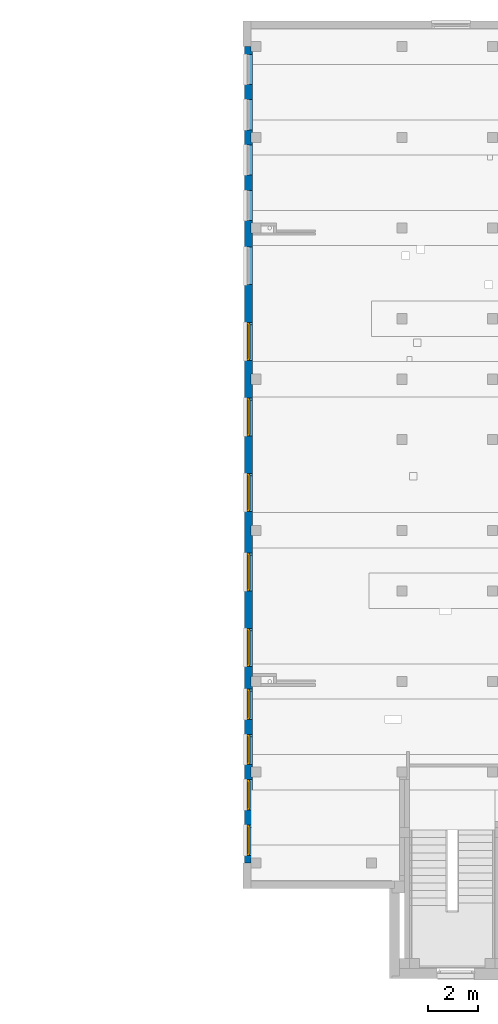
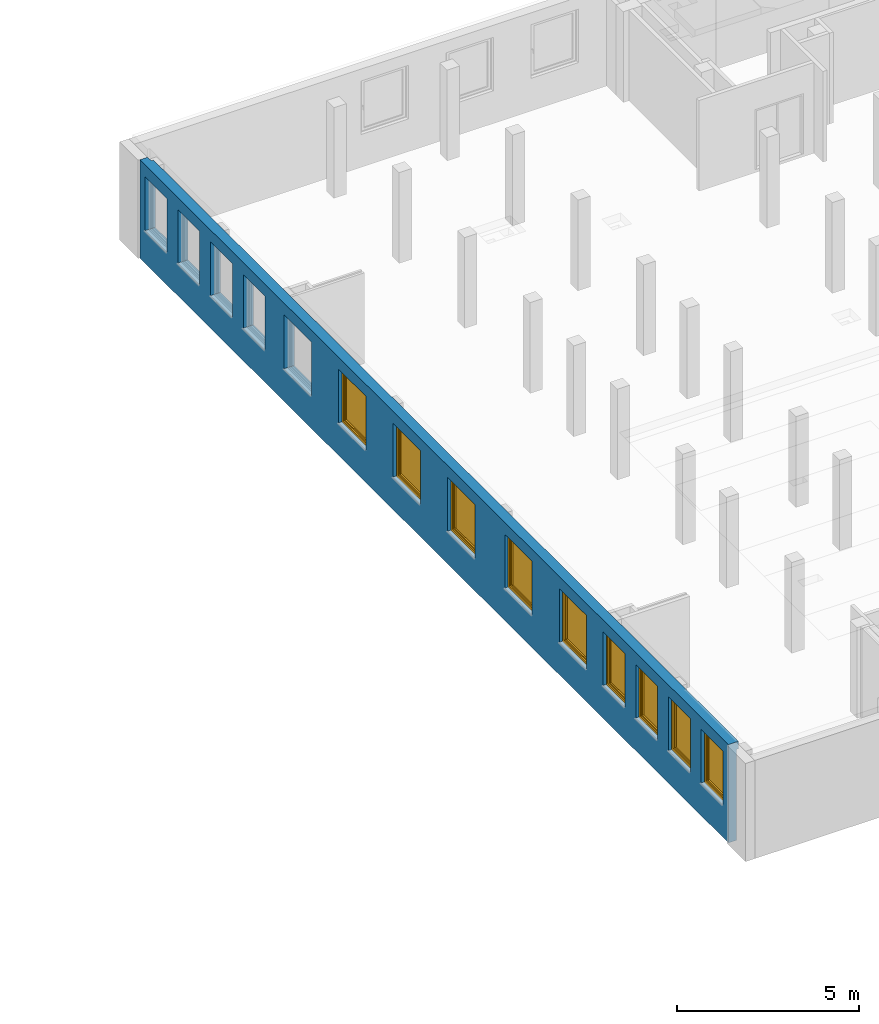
# One storey, part 7 of 27: 9 windows, 1 wall, 14 openings.
"""IFC4 building model written with IfcOpenShell, lengths in metres."""

import ifcopenshell
import ifcopenshell.guid

model = None  # the IFC model being written
_history = None  # IfcOwnerHistory: only IFC2X3 demands one
_inside = {}  # id of a spatial element -> (the spatial element, [elements in it])
_under = {}  # id of a project, library or spatial element -> (it, [spatial elements below it])
_declared = {}  # id of a project -> (the project, [libraries it declares])
_typed = {}  # id of a type object -> (the type object, [elements of that type])
_made_of = {}  # id of a material, layer set ... -> (it, [elements and type objects made of it])


def new_model(schema):
    """Start an empty IFC model of exactly this schema.

    Asked for "IFC4X3", IfcOpenShell would pick the latest addendum, in which some entities
    have other attributes; the version numbers below select the first issue.
    IFC2X3 requires an IfcOwnerHistory on every rooted entity: one is made here for all.
    """
    global model, _history
    if schema == "IFC4X3":
        model = ifcopenshell.file(schema_version=(4, 3, 0, 0))
    else:
        model = ifcopenshell.file(schema=schema)
    _inside.clear()
    _under.clear()
    _declared.clear()
    _typed.clear()
    _made_of.clear()
    _history = None
    if model.schema == "IFC2X3":
        org = make("IfcOrganization", Name="unknown")
        user = make(
            "IfcPersonAndOrganization",
            ThePerson=make("IfcPerson", FamilyName="unknown"),
            TheOrganization=org,
        )
        app = make(
            "IfcApplication",
            ApplicationDeveloper=org,
            Version="unknown",
            ApplicationFullName="unknown",
            ApplicationIdentifier="unknown",
        )
        _history = make(
            "IfcOwnerHistory",
            OwningUser=user,
            OwningApplication=app,
            ChangeAction="ADDED",
            CreationDate=0,
        )
    return model


def make(cls, **values):
    """One entity of the class cls with the attributes given. An attribute that is None is left unset."""
    return model.create_entity(
        cls, **{name: value for name, value in values.items() if value is not None}
    )


def entity(cls, *values):
    """Any entity or typed value of the class cls, its attributes in the order of the schema. None: left unset."""
    e = model.create_entity(cls)
    for i, value in enumerate(values):
        if value is not None:
            e[i] = value
    return e


def rooted(cls, **values):
    """An entity with a GlobalId (a new one), such as an element, a storey or a relation."""
    return make(cls, GlobalId=ifcopenshell.guid.new(), OwnerHistory=_history, **values)


def si_unit(unit_type, name, prefix=None):
    """IfcSIUnit, for example si_unit("LENGTHUNIT", "METRE", prefix="MILLI")."""
    return make("IfcSIUnit", UnitType=unit_type, Prefix=prefix, Name=name)


def converted_unit(unit_type, name, factor, base, dimensions=None, offset=None):
    """IfcConversionBasedUnit, such as the inch: factor (a typed value) times the base unit."""
    return make(
        "IfcConversionBasedUnit"
        if offset is None
        else "IfcConversionBasedUnitWithOffset",
        ConversionOffset=offset,
        Dimensions=None
        if dimensions is None
        else entity("IfcDimensionalExponents", *dimensions),
        UnitType=unit_type,
        Name=name,
        ConversionFactor=make(
            "IfcMeasureWithUnit", ValueComponent=factor, UnitComponent=base
        ),
    )


def derived_unit(unit_type, elements):
    """IfcDerivedUnit: a product of units, each with its exponent."""
    return make(
        "IfcDerivedUnit",
        Elements=[
            make("IfcDerivedUnitElement", Unit=unit, Exponent=power)
            for unit, power in elements
        ],
        UnitType=unit_type,
    )


def assignment(units):
    """IfcUnitAssignment: the units of a project."""
    return None if units is None else make("IfcUnitAssignment", Units=units)


def point(xyz):
    """IfcCartesianPoint."""
    return None if xyz is None else make("IfcCartesianPoint", Coordinates=xyz)


def direction(xyz):
    """IfcDirection."""
    return None if xyz is None else make("IfcDirection", DirectionRatios=xyz)


def frame(location, z_axis=None, x_axis=None):
    """IfcAxis2Placement3D, a coordinate frame: its origin and axes. An axis left out is left unset."""
    return make(
        "IfcAxis2Placement3D",
        Location=point(location),
        Axis=direction(z_axis),
        RefDirection=direction(x_axis),
    )


def origin():
    """The frame at (0, 0, 0) with its axes left unset."""
    return frame((0.0, 0.0, 0.0))


def origin_with_axes():
    """The frame at (0, 0, 0) with the z axis (0, 0, 1) and the x axis (1, 0, 0) written out."""
    return frame((0.0, 0.0, 0.0), z_axis=(0.0, 0.0, 1.0), x_axis=(1.0, 0.0, 0.0))


def place(relative_to, where):
    """IfcLocalPlacement: puts the frame where relative to a parent placement (None: the world)."""
    return make(
        "IfcLocalPlacement", PlacementRelTo=relative_to, RelativePlacement=where
    )


def context(
    kind, dimensions, precision=None, world=None, true_north=None, identifier=None
):
    """IfcGeometricRepresentationContext, for example the 3D "Model" context."""
    return make(
        "IfcGeometricRepresentationContext",
        ContextIdentifier=identifier,
        ContextType=kind,
        CoordinateSpaceDimension=dimensions,
        Precision=precision,
        WorldCoordinateSystem=world,
        TrueNorth=true_north,
    )


def subcontext(parent, identifier, kind, view, scale=None):
    """IfcGeometricRepresentationSubContext, for example "Body" below "Model"."""
    return make(
        "IfcGeometricRepresentationSubContext",
        ContextIdentifier=identifier,
        ContextType=kind,
        ParentContext=parent,
        TargetScale=scale,
        TargetView=view,
    )


def project(units=None, contexts=None):
    """IfcProject with its units and contexts."""
    return rooted(
        "IfcProject",
        Name="project",
        RepresentationContexts=contexts,
        UnitsInContext=assignment(units),
    )


def spatial(cls, under=None, at=None, **own):
    """A site, building, storey or space (cls), placed at a placement, below another one or the project."""
    s = rooted(cls, ObjectPlacement=at, **own)
    if under is not None:
        _under.setdefault(under.id(), (under, []))[1].append(s)
    return s


def polyline(points):
    """IfcPolyline through the points."""
    return make("IfcPolyline", Points=[point(p) for p in points])


def outline(outer, holes=None, kind="AREA"):
    """IfcArbitraryClosedProfileDef: a profile drawn as a closed curve; with holes, ...WithVoids."""
    if holes is None:
        return make("IfcArbitraryClosedProfileDef", ProfileType=kind, OuterCurve=outer)
    return make(
        "IfcArbitraryProfileDefWithVoids",
        ProfileType=kind,
        OuterCurve=outer,
        InnerCurves=holes,
    )


def extrude(swept, where, along, depth):
    """IfcExtrudedAreaSolid: the profile swept, set in the frame where, extruded along a direction by depth."""
    return make(
        "IfcExtrudedAreaSolid",
        SweptArea=swept,
        Position=where,
        ExtrudedDirection=direction(along),
        Depth=depth,
    )


def clip(a, b, op="DIFFERENCE"):
    """IfcBooleanClippingResult: the solid a cut by the half space b."""
    return make(
        "IfcBooleanClippingResult", Operator=op, FirstOperand=a, SecondOperand=b
    )


def bounded_halfspace(plane, agree, where, boundary):
    """IfcPolygonalBoundedHalfSpace: a half space limited to a polygon's prism."""
    return make(
        "IfcPolygonalBoundedHalfSpace",
        BaseSurface=make("IfcPlane", Position=plane),
        AgreementFlag=agree,
        Position=where,
        PolygonalBoundary=boundary,
    )


def faces_of(points, faces, orient=None, outer=None):
    """IfcFace entities. A face is a list of loops; a loop is a list of indices into points, from 0.

    orient and outer hold one flag for each loop. By default every Orientation is true, the
    first loop of a face is its IfcFaceOuterBound and the others are IfcFaceBound.
    """
    made = []
    for i, loops in enumerate(faces):
        bounds = []
        for j, loop in enumerate(loops):
            is_outer = j == 0 if outer is None else outer[i][j]
            bounds.append(
                make(
                    "IfcFaceOuterBound" if is_outer else "IfcFaceBound",
                    Bound=make("IfcPolyLoop", Polygon=[points[k] for k in loop]),
                    Orientation=True if orient is None else orient[i][j],
                )
            )
        made.append(make("IfcFace", Bounds=bounds))
    return made


def closed_shell(faces, orient=None, outer=None):
    """The faces of one IfcClosedShell. faceted_brep and surface_model build it on their shared points."""
    return ("IfcClosedShell", faces, orient, outer)


def open_shell(faces, orient=None, outer=None):
    """The faces of one IfcOpenShell. surface_model builds it on its shared points."""
    return ("IfcOpenShell", faces, orient, outer)


def surface_model(cls, points, shells):
    """IfcFaceBasedSurfaceModel or IfcShellBasedSurfaceModel (cls): surfaces that need not close."""
    shared = [point(p) for p in points]
    made = [make(c, CfsFaces=faces_of(shared, fs, o, b)) for c, fs, o, b in shells]
    if cls == "IfcFaceBasedSurfaceModel":
        return make(cls, FbsmFaces=made)
    return make(cls, SbsmBoundary=made)


def shape(context_of_items, identifier, shape_type, items):
    """IfcShapeRepresentation: the items that make up one representation, for example the "Body"."""
    return make(
        "IfcShapeRepresentation",
        ContextOfItems=context_of_items,
        RepresentationIdentifier=identifier,
        RepresentationType=shape_type,
        Items=items,
    )


def source(mapping_origin, context_of_items, identifier, shape_type, items):
    """IfcRepresentationMap: a shape defined once, which mapped items show again and again."""
    return make(
        "IfcRepresentationMap",
        MappingOrigin=mapping_origin,
        MappedRepresentation=shape(context_of_items, identifier, shape_type, items),
    )


def transform(
    local_origin,
    x_axis=None,
    y_axis=None,
    z_axis=None,
    scale=None,
    scale2=None,
    scale3=None,
    uniform=True,
):
    """IfcCartesianTransformationOperator3D, or its non-uniform kind. x_axis, y_axis, z_axis: its Axis1, 2, 3."""
    if uniform:
        return make(
            "IfcCartesianTransformationOperator3D",
            Axis1=direction(x_axis),
            Axis2=direction(y_axis),
            LocalOrigin=point(local_origin),
            Scale=scale,
            Axis3=direction(z_axis),
        )
    return make(
        "IfcCartesianTransformationOperator3DnonUniform",
        Axis1=direction(x_axis),
        Axis2=direction(y_axis),
        LocalOrigin=point(local_origin),
        Scale=scale,
        Axis3=direction(z_axis),
        Scale2=scale2,
        Scale3=scale3,
    )


def mapped(mapping_source, mapping_target):
    """IfcMappedItem: shows the shape of a source again, moved by a transform."""
    return make(
        "IfcMappedItem", MappingSource=mapping_source, MappingTarget=mapping_target
    )


def material(Name=None, Category=None):
    """IfcMaterial."""
    return make("IfcMaterial", Name=Name, Category=Category)


def layer(
    of_material, thickness, ventilated=None, Name=None, Category=None, Priority=None
):
    """IfcMaterialLayer: one layer of a wall or slab, of a material (None: an air gap)."""
    return make(
        "IfcMaterialLayer",
        Material=of_material,
        LayerThickness=thickness,
        IsVentilated=ventilated,
        Name=Name,
        Category=Category,
        Priority=Priority,
    )


def layer_set(layers, Name=None):
    """IfcMaterialLayerSet."""
    return make("IfcMaterialLayerSet", MaterialLayers=layers, LayerSetName=Name)


def layer_usage(for_layer_set, set_direction, sense, offset, extent=None):
    """IfcMaterialLayerSetUsage: how a layer set lies in its element."""
    return make(
        "IfcMaterialLayerSetUsage",
        ForLayerSet=for_layer_set,
        LayerSetDirection=set_direction,
        DirectionSense=sense,
        OffsetFromReferenceLine=offset,
        ReferenceExtent=extent,
    )


def made_of(thing, what):
    """Note that an element or type object is made of a material, layer set ...; save() writes the relation."""
    if what is not None:
        _made_of.setdefault(what.id(), (what, []))[1].append(thing)
    return thing


def element(
    cls,
    number,
    at=None,
    inside=None,
    cuts=None,
    type_object=None,
    material=None,
    context=None,
    identifier="Body",
    shape_type=None,
    held_by="IfcProductDefinitionShape",
    body=None,
    shapes=None,
    **own,
):
    """One element of the class cls, such as IfcWall. Its Tag is "e" and its number.

    at: its placement. inside: the storey or other place that contains it. cuts: it is an
    opening in that element (IfcRelVoidsElement). A single representation is given by context,
    identifier, shape_type and body (its items); several are given by shapes. held_by: the class
    of the entity that holds the representations. save() writes the other relations.
    """
    e = rooted(cls, Tag="e%d" % number, ObjectPlacement=at, **own)
    if body is not None:
        shapes = [shape(context, identifier, shape_type, body)]
    if shapes is not None:
        e.Representation = make(held_by, Representations=shapes)
    if inside is not None:
        _inside.setdefault(inside.id(), (inside, []))[1].append(e)
    if cuts is not None:
        rooted(
            "IfcRelVoidsElement", RelatingBuildingElement=cuts, RelatedOpeningElement=e
        )
    if type_object is not None:
        _typed.setdefault(type_object.id(), (type_object, []))[1].append(e)
    return made_of(e, material)


def fill(opening, filler):
    """IfcRelFillsElement: the door or window that sits in an opening."""
    return rooted(
        "IfcRelFillsElement",
        RelatingOpeningElement=opening,
        RelatedBuildingElement=filler,
    )


def aggregate(whole, parts):
    """IfcRelAggregates: a whole, such as a stair, and the parts it consists of."""
    return rooted("IfcRelAggregates", RelatingObject=whole, RelatedObjects=parts)


def save(model, path):
    """Write the relations noted so far, then the file.

    IfcRelAggregates (storeys below a building ...), IfcRelContainedInSpatialStructure (elements
    in a storey), IfcRelDefinesByType, IfcRelAssociatesMaterial and IfcRelDeclares: one each for
    every whole, place, type object, material and project.
    """
    for whole, parts in _under.values():
        aggregate(whole, parts)
    for where, things in _inside.values():
        rooted(
            "IfcRelContainedInSpatialStructure",
            RelatedElements=things,
            RelatingStructure=where,
        )
    for kind, things in _typed.values():
        rooted("IfcRelDefinesByType", RelatedObjects=things, RelatingType=kind)
    for what, things in _made_of.values():
        rooted("IfcRelAssociatesMaterial", RelatedObjects=things, RelatingMaterial=what)
    for by, libraries in _declared.values():
        rooted("IfcRelDeclares", RelatingContext=by, RelatedDefinitions=libraries)
    model.write(path)


model = new_model("IFC4")

# Units and contexts
model_context = context("Model", 3, precision=1e-05, world=origin())
body_context = subcontext(model_context, "Body", "Model", "MODEL_VIEW")
ifc_project = project(units=[si_unit("LENGTHUNIT", "METRE"), si_unit("AREAUNIT", "SQUARE_METRE"), si_unit("VOLUMEUNIT", "CUBIC_METRE"), si_unit("MASSUNIT", "GRAM", prefix="KILO"), converted_unit("PLANEANGLEUNIT", "DEGREE", entity("IfcPlaneAngleMeasure", 0.0174532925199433), si_unit("PLANEANGLEUNIT", "RADIAN"), dimensions=[0, 0, 0, 0, 0, 0, 0]), derived_unit("THERMALTRANSMITTANCEUNIT", [(si_unit("POWERUNIT", "WATT"), 1), (si_unit("THERMODYNAMICTEMPERATUREUNIT", "KELVIN"), -1), (si_unit("LENGTHUNIT", "METRE"), -2)]), derived_unit("VOLUMETRICFLOWRATEUNIT", [(si_unit("LENGTHUNIT", "METRE"), 3), (converted_unit("TIMEUNIT", "hour", entity("IfcTimeMeasure", 3600.0), si_unit("TIMEUNIT", "SECOND"), dimensions=[0, 0, 1, 0, 0, 0, 0]), -1), (si_unit("LENGTHUNIT", "METRE"), -1)])], contexts=[model_context])

# Site, building, storey
site_placement = place(None, origin())
site = spatial("IfcSite", under=ifc_project, at=site_placement, Name="3. ASŘ", CompositionType="ELEMENT")
building_placement = place(site_placement, origin())
building = spatial("IfcBuilding", under=site, at=building_placement, Name="Pavilon C", CompositionType="ELEMENT")
storey_placement = place(building_placement, frame((0.0, 0.0, 10.5)))
storey = spatial("IfcBuildingStorey", under=building, at=storey_placement, Name="Půdorys 4.NP", CompositionType="ELEMENT", Elevation=10.5)

# Wall, openings, windows
ifc_material = material(Name="ZELEZOBETONOVÁ KCE")
ifc_layer = layer(ifc_material, 0.32)
ifc_layer_set = layer_set([ifc_layer])
ifc_layer_usage = layer_usage(ifc_layer_set, "AXIS2", "POSITIVE", 0.0)
wall_placement = place(storey_placement, frame((24.5, 32.4, -0.1), z_axis=(0.0, 0.0, 1.0), x_axis=(-2.24566593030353e-16, -1.0, 0.0)))
wall = element("IfcWall", 1, at=wall_placement, inside=storey, material=ifc_layer_usage, Name="ZELEZOBETONOVÁ KCE", context=body_context, shape_type="Clipping", body=[
    clip(clip(clip(clip(clip(clip(clip(extrude(outline(polyline([(-32.4, 0.0), (-7.18613097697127e-17, -1.61376495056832e-32), (-7.18613097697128e-17, 0.32), (-32.2, 0.32), (-32.2, 0.25), (-32.4, 0.25), (-32.4, 0.0)])), frame((32.4, 0.0, 0.0), z_axis=(0.0, 0.0, 1.0), x_axis=(1.0, 0.0, 0.0)), (0.0, 0.0, 1.0), 3.3), bounded_halfspace(frame((13.2, 0.284999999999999, 3.05), z_axis=(0.0, 0.0, 1.0), x_axis=(2.24566593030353e-16, -1.0, 0.0)), True, origin_with_axes(), polyline([(13.0, 0.319999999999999), (13.0, 0.250000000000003), (13.4, 0.250000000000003), (13.4, 0.319999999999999), (13.0, 0.319999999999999)]))), bounded_halfspace(frame((25.2, 0.284999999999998, 3.05), z_axis=(0.0, 0.0, 1.0), x_axis=(2.24566593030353e-16, -1.0, 0.0)), True, origin_with_axes(), polyline([(25.0, 0.319999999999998), (25.0, 0.249999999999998), (25.4, 0.249999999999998), (25.4, 0.319999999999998), (25.0, 0.319999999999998)]))), bounded_halfspace(frame((28.8, 0.284999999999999, 3.05), z_axis=(0.0, 0.0, 1.0), x_axis=(2.24566593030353e-16, -1.0, 0.0)), True, origin_with_axes(), polyline([(28.6, 0.319999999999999), (28.6, 0.249999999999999), (29.0, 0.249999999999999), (29.0, 0.319999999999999), (28.6, 0.319999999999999)]))), bounded_halfspace(frame((19.2, 0.285000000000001, 3.05), z_axis=(0.0, 0.0, 1.0), x_axis=(2.24566593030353e-16, -1.0, 0.0)), True, origin_with_axes(), polyline([(19.0, 0.320000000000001), (19.0, 0.249999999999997), (19.4, 0.249999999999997), (19.4, 0.320000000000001), (19.0, 0.320000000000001)]))), bounded_halfspace(frame((7.2, 0.285000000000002, 3.05), z_axis=(0.0, 0.0, 1.0), x_axis=(2.24566593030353e-16, -1.0, 0.0)), True, origin_with_axes(), polyline([(7.0, 0.320000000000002), (7.0, 0.250000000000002), (7.4, 0.250000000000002), (7.4, 0.320000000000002), (7.0, 0.320000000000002)]))), bounded_halfspace(frame((32.3, 0.285, 3.05), z_axis=(0.0, 0.0, 1.0), x_axis=(2.24566593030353e-16, -1.0, 0.0)), True, origin_with_axes(), polyline([(32.2, 0.32), (32.2, 0.25), (32.4, 0.25), (32.4, 0.32), (32.2, 0.32)]))), bounded_halfspace(frame((3.6, 0.284999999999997, 3.05), z_axis=(0.0, 0.0, 1.0), x_axis=(2.24566593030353e-16, -1.0, 0.0)), True, origin_with_axes(), polyline([(3.4, 0.320000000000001), (3.4, 0.249999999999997), (3.8, 0.249999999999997), (3.8, 0.320000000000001), (3.4, 0.320000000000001)]))),
])
opening_1_placement = place(wall_placement, frame((30.9, -3.36849889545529e-16, 1.1), z_axis=(0.0, 1.0, 0.0), x_axis=(0.0, 0.0, 1.0)))
opening_1 = element("IfcOpeningElement", 2, at=opening_1_placement, cuts=wall, Name="Okenní otvor", ObjectType="Opening", context=body_context, shape_type="SweptSolid", body=[
    extrude(outline(polyline([(0.0, 1.2), (1.8, 1.2), (1.8, 0.0), (0.0, 0.0), (0.0, 1.2)])), origin_with_axes(), (0.0, 0.0, 1.0), 0.32),
])
opening_2_placement = place(wall_placement, frame((29.1, -7.41069757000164e-16, 1.1), z_axis=(0.0, 1.0, 0.0), x_axis=(0.0, 0.0, 1.0)))
opening_2 = element("IfcOpeningElement", 3, at=opening_2_placement, cuts=wall, Name="Okenní otvor", ObjectType="Opening", context=body_context, shape_type="SweptSolid", body=[
    extrude(outline(polyline([(0.0, 1.2), (1.8, 1.2), (1.8, 0.0), (0.0, 0.0), (0.0, 1.2)])), origin_with_axes(), (0.0, 0.0, 1.0), 0.32),
])
opening_3_placement = place(wall_placement, frame((27.3, -1.1452896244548e-15, 1.1), z_axis=(0.0, 1.0, 0.0), x_axis=(0.0, 0.0, 1.0)))
opening_3 = element("IfcOpeningElement", 4, at=opening_3_placement, cuts=wall, Name="Okenní otvor", ObjectType="Opening", context=body_context, shape_type="SweptSolid", body=[
    extrude(outline(polyline([(0.0, 1.2), (1.8, 1.2), (1.8, 0.0), (0.0, 0.0), (0.0, 1.2)])), origin_with_axes(), (0.0, 0.0, 1.0), 0.32),
])
opening_4_placement = place(wall_placement, frame((25.5, -1.54950949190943e-15, 1.1), z_axis=(0.0, 1.0, 0.0), x_axis=(0.0, 0.0, 1.0)))
opening_4 = element("IfcOpeningElement", 5, at=opening_4_placement, cuts=wall, Name="Okenní otvor", ObjectType="Opening", context=body_context, shape_type="SweptSolid", body=[
    extrude(outline(polyline([(0.0, 1.2), (1.8, 1.2), (1.8, 0.0), (0.0, 0.0), (0.0, 1.2)])), origin_with_axes(), (0.0, 0.0, 1.0), 0.32),
])
opening_5_placement = place(wall_placement, frame((23.1, -2.08846931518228e-15, 1.1), z_axis=(0.0, 1.0, 0.0), x_axis=(0.0, 0.0, 1.0)))
opening_5 = element("IfcOpeningElement", 6, at=opening_5_placement, cuts=wall, Name="Okenní otvor", ObjectType="Opening", context=body_context, shape_type="SweptSolid", body=[
    extrude(outline(polyline([(0.0, 1.5), (1.8, 1.5), (1.8, 0.0), (0.0, 0.0), (0.0, 1.5)])), origin_with_axes(), (0.0, 0.0, 1.0), 0.320000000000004),
])
opening_6_placement = place(wall_placement, frame((20.1, 8.75809712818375e-16, 1.1), z_axis=(0.0, 1.0, 0.0), x_axis=(0.0, 0.0, 1.0)))
opening_6 = element("IfcOpeningElement", 7, at=opening_6_placement, cuts=wall, Name="Okenní otvor", ObjectType="Opening", context=body_context, shape_type="SweptSolid", body=[
    extrude(outline(polyline([(0.0, 1.5), (1.8, 1.5), (1.8, 0.0), (0.0, 0.0), (0.0, 1.5)])), origin_with_axes(), (0.0, 0.0, 1.0), 0.32),
])
opening_7_placement = place(wall_placement, frame((16.95, 1.68424944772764e-16, 1.1), z_axis=(0.0, 1.0, 0.0), x_axis=(0.0, 0.0, 1.0)))
opening_7 = element("IfcOpeningElement", 8, at=opening_7_placement, cuts=wall, Name="Okenní otvor", ObjectType="Opening", context=body_context, shape_type="SweptSolid", body=[
    extrude(outline(polyline([(0.0, 1.5), (1.8, 1.5), (1.8, 0.0), (0.0, 0.0), (0.0, 1.5)])), origin_with_axes(), (0.0, 0.0, 1.0), 0.32),
])
opening_8_placement = place(wall_placement, frame((13.95, -5.05274834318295e-16, 1.1), z_axis=(0.0, 1.0, 0.0), x_axis=(0.0, 0.0, 1.0)))
opening_8 = element("IfcOpeningElement", 9, at=opening_8_placement, cuts=wall, Name="Okenní otvor", ObjectType="Opening", context=body_context, shape_type="SweptSolid", body=[
    extrude(outline(polyline([(0.0, 1.5), (1.8, 1.5), (1.8, 0.0), (0.0, 0.0), (0.0, 1.5)])), origin_with_axes(), (0.0, 0.0, 1.0), 0.32),
])
opening_9_placement = place(wall_placement, frame((10.95, -1.17897461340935e-15, 1.1), z_axis=(0.0, 1.0, 0.0), x_axis=(0.0, 0.0, 1.0)))
opening_9 = element("IfcOpeningElement", 10, at=opening_9_placement, cuts=wall, Name="Okenní otvor", ObjectType="Opening", context=body_context, shape_type="SweptSolid", body=[
    extrude(outline(polyline([(0.0, 1.5), (1.8, 1.5), (1.8, 0.0), (0.0, 0.0), (0.0, 1.5)])), origin_with_axes(), (0.0, 0.0, 1.0), 0.32),
])
opening_10_placement = place(wall_placement, frame((7.95, -1.85267439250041e-15, 1.1), z_axis=(0.0, 1.0, 0.0), x_axis=(0.0, 0.0, 1.0)))
element("IfcOpeningElement", 11, at=opening_10_placement, cuts=wall, Name="Okenní otvor", ObjectType="Opening", context=body_context, shape_type="SweptSolid", body=[
    extrude(outline(polyline([(0.0, 1.5), (1.8, 1.5), (1.8, 0.0), (0.0, 0.0), (0.0, 1.5)])), origin_with_axes(), (0.0, 0.0, 1.0), 0.320000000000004),
])
opening_11_placement = place(wall_placement, frame((5.7, 1.28002958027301e-15, 1.1), z_axis=(0.0, 1.0, 0.0), x_axis=(0.0, 0.0, 1.0)))
element("IfcOpeningElement", 12, at=opening_11_placement, cuts=wall, Name="Okenní otvor", ObjectType="Opening", context=body_context, shape_type="SweptSolid", body=[
    extrude(outline(polyline([(0.0, 1.2), (1.8, 1.2), (1.8, 0.0), (0.0, 0.0), (0.0, 1.2)])), origin_with_axes(), (0.0, 0.0, 1.0), 0.32),
])
opening_12_placement = place(wall_placement, frame((3.90000000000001, 8.75809712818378e-16, 1.1), z_axis=(0.0, 1.0, 0.0), x_axis=(0.0, 0.0, 1.0)))
element("IfcOpeningElement", 13, at=opening_12_placement, cuts=wall, Name="Okenní otvor", ObjectType="Opening", context=body_context, shape_type="SweptSolid", body=[
    extrude(outline(polyline([(0.0, 1.2), (1.8, 1.2), (1.8, 0.0), (0.0, 0.0), (0.0, 1.2)])), origin_with_axes(), (0.0, 0.0, 1.0), 0.32),
])
opening_13_placement = place(wall_placement, frame((2.10000000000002, 4.71589845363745e-16, 1.1), z_axis=(0.0, 1.0, 0.0), x_axis=(0.0, 0.0, 1.0)))
element("IfcOpeningElement", 14, at=opening_13_placement, cuts=wall, Name="Okenní otvor", ObjectType="Opening", context=body_context, shape_type="SweptSolid", body=[
    extrude(outline(polyline([(0.0, 1.2), (1.8, 1.2), (1.8, 0.0), (0.0, 0.0), (0.0, 1.2)])), origin_with_axes(), (0.0, 0.0, 1.0), 0.32),
])
opening_14_placement = place(wall_placement, frame((0.300000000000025, 6.73699779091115e-17, 1.1), z_axis=(-1.77635683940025e-16, 1.0, 0.0), x_axis=(0.0, 0.0, 1.0)))
element("IfcOpeningElement", 15, at=opening_14_placement, cuts=wall, Name="Okenní otvor", ObjectType="Opening", context=body_context, shape_type="SweptSolid", body=[
    extrude(outline(polyline([(0.0, 1.2), (1.8, 1.2), (1.8, 0.0), (0.0, 0.0), (0.0, 1.2)])), origin_with_axes(), (0.0, 0.0, 1.0), 0.32),
])
shared_shape_1 = source(origin_with_axes(), body_context, "Body", "SurfaceModel", [
    surface_model("IfcShellBasedSurfaceModel", [(0.0, 0.182, 1.8), (0.0, 0.182, -5.63337527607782e-18), (0.08, 0.182, -5.63337527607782e-18), (0.08, 0.182, 1.8), (0.0, 0.0899999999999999, 5.63337527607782e-18), (0.0, 0.0900000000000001, 1.8), (0.08, 0.0900000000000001, 1.8), (0.08, 0.0899999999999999, 5.63337527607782e-18)], [closed_shell([[[0, 1, 2, 3]], [[4, 5, 6, 7]], [[1, 0, 5, 4]], [[2, 1, 4, 7]], [[3, 2, 7, 6]], [[0, 3, 6, 5]]], orient=[[False], [False], [False], [False], [False], [False]])]),
    surface_model("IfcShellBasedSurfaceModel", [(1.12, 0.182, 1.8), (1.12, 0.182, -5.63337527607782e-18), (1.2, 0.182, -5.63337527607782e-18), (1.2, 0.182, 1.8), (1.12, 0.0899999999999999, 5.63337527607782e-18), (1.12, 0.0900000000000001, 1.8), (1.2, 0.0900000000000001, 1.8), (1.2, 0.0899999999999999, 5.63337527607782e-18)], [closed_shell([[[0, 1, 2, 3]], [[4, 5, 6, 7]], [[1, 0, 5, 4]], [[2, 1, 4, 7]], [[3, 2, 7, 6]], [[0, 3, 6, 5]]], orient=[[False], [False], [False], [False], [False], [False]])]),
    surface_model("IfcShellBasedSurfaceModel", [(0.08, 0.182, 0.08), (0.08, 0.182, -5.63337527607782e-18), (1.12, 0.182, -5.63337527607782e-18), (1.12, 0.182, 0.08), (0.08, 0.0899999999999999, 5.63337527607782e-18), (0.08, 0.0899999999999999, 0.08), (1.12, 0.0899999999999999, 0.08), (1.12, 0.0899999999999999, 5.63337527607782e-18)], [closed_shell([[[0, 1, 2, 3]], [[4, 5, 6, 7]], [[1, 0, 5, 4]], [[2, 1, 4, 7]], [[3, 2, 7, 6]], [[0, 3, 6, 5]]], orient=[[False], [False], [False], [False], [False], [False]])]),
    surface_model("IfcShellBasedSurfaceModel", [(0.08, 0.182, 1.8), (0.08, 0.182, 1.72), (1.12, 0.182, 1.72), (1.12, 0.182, 1.8), (0.08, 0.0900000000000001, 1.72), (0.08, 0.0900000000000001, 1.8), (1.12, 0.0900000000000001, 1.8), (1.12, 0.0900000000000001, 1.72)], [closed_shell([[[0, 1, 2, 3]], [[4, 5, 6, 7]], [[1, 0, 5, 4]], [[2, 1, 4, 7]], [[3, 2, 7, 6]], [[0, 3, 6, 5]]], orient=[[False], [False], [False], [False], [False], [False]])]),
    surface_model("IfcShellBasedSurfaceModel", [(0.05, 0.145, 1.75), (0.05, 0.145, 0.05), (0.13, 0.145, 0.05), (0.13, 0.145, 1.75), (0.05, 0.0599999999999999, 0.05), (0.05, 0.0600000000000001, 1.75), (0.13, 0.0600000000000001, 1.75), (0.13, 0.0599999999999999, 0.05)], [closed_shell([[[0, 1, 2, 3]], [[4, 5, 6, 7]], [[1, 0, 5, 4]], [[2, 1, 4, 7]], [[3, 2, 7, 6]], [[0, 3, 6, 5]]], orient=[[False], [False], [False], [False], [False], [False]])]),
    surface_model("IfcShellBasedSurfaceModel", [(1.07, 0.145, 1.75), (1.07, 0.145, 0.05), (1.15, 0.145, 0.05), (1.15, 0.145, 1.75), (1.07, 0.0599999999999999, 0.05), (1.07, 0.0600000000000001, 1.75), (1.15, 0.0600000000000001, 1.75), (1.15, 0.0599999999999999, 0.05)], [closed_shell([[[0, 1, 2, 3]], [[4, 5, 6, 7]], [[1, 0, 5, 4]], [[2, 1, 4, 7]], [[3, 2, 7, 6]], [[0, 3, 6, 5]]], orient=[[False], [False], [False], [False], [False], [False]])]),
    surface_model("IfcShellBasedSurfaceModel", [(0.13, 0.145, 0.13), (0.13, 0.145, 0.05), (1.07, 0.145, 0.05), (1.07, 0.145, 0.13), (0.13, 0.0599999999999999, 0.05), (0.13, 0.0599999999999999, 0.13), (1.07, 0.0599999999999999, 0.13), (1.07, 0.0599999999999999, 0.05)], [closed_shell([[[0, 1, 2, 3]], [[4, 5, 6, 7]], [[1, 0, 5, 4]], [[2, 1, 4, 7]], [[3, 2, 7, 6]], [[0, 3, 6, 5]]], orient=[[False], [False], [False], [False], [False], [False]])]),
    surface_model("IfcShellBasedSurfaceModel", [(0.13, 0.145, 1.75), (0.13, 0.145, 1.67), (1.07, 0.145, 1.67), (1.07, 0.145, 1.75), (0.13, 0.0600000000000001, 1.67), (0.13, 0.0600000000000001, 1.75), (1.07, 0.0600000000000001, 1.75), (1.07, 0.0600000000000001, 1.67)], [closed_shell([[[0, 1, 2, 3]], [[4, 5, 6, 7]], [[1, 0, 5, 4]], [[2, 1, 4, 7]], [[3, 2, 7, 6]], [[0, 3, 6, 5]]], orient=[[False], [False], [False], [False], [False], [False]])]),
    surface_model("IfcShellBasedSurfaceModel", [(1.0975, 0.06, 0.92), (1.0975, 0.06, 0.88), (1.1225, 0.06, 0.88), (1.1225, 0.06, 0.92), (1.0975, 0.05, 0.88), (1.0975, 0.05, 0.92), (1.1225, 0.05, 0.92), (1.1225, 0.05, 0.88)], [closed_shell([[[0, 1, 2, 3]], [[4, 5, 6, 7]], [[1, 0, 5, 4]], [[2, 1, 4, 7]], [[3, 2, 7, 6]], [[0, 3, 6, 5]]], orient=[[False], [False], [False], [False], [False], [False]])]),
    surface_model("IfcShellBasedSurfaceModel", [(1.12, 0.05, 0.9), (1.11866025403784, 0.05, 0.905), (1.115, 0.05, 0.908660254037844), (1.11, 0.05, 0.91), (1.105, 0.05, 0.908660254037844), (1.10133974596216, 0.05, 0.905), (1.1, 0.05, 0.9), (1.10133974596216, 0.05, 0.895), (1.105, 0.05, 0.891339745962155), (1.11, 0.05, 0.89), (1.115, 0.05, 0.891339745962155), (1.11866025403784, 0.05, 0.895), (1.12, 0.01, 0.9), (1.11866025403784, 0.00500000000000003, 0.905), (1.115, 0.00133974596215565, 0.908660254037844), (1.11, 2.8421709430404e-17, 0.91), (1.105, 0.00133974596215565, 0.908660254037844), (1.10133974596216, 0.00500000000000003, 0.905), (1.1, 0.01, 0.9), (1.10133974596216, 0.015, 0.895), (1.105, 0.0186602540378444, 0.891339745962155), (1.11, 0.02, 0.89), (1.115, 0.0186602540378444, 0.891339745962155), (1.11866025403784, 0.015, 0.895), (1.12, 0.01, 0.785), (1.11866025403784, 0.005, 0.785), (1.115, 0.00133974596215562, 0.785), (1.11, 0.0, 0.785), (1.105, 0.00133974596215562, 0.785), (1.10133974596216, 0.005, 0.785), (1.1, 0.01, 0.785), (1.10133974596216, 0.015, 0.785), (1.105, 0.0186602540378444, 0.785), (1.11, 0.02, 0.785), (1.115, 0.0186602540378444, 0.785), (1.11866025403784, 0.015, 0.785)], [open_shell([[[0, 1, 2, 3, 4, 5, 6, 7, 8, 9, 10, 11]], [[0, 12, 13, 1]], [[1, 13, 14, 2]], [[2, 14, 15, 3]], [[3, 15, 16, 4]], [[4, 16, 17, 5]], [[5, 17, 18, 6]], [[6, 18, 19, 7]], [[7, 19, 20, 8]], [[8, 20, 21, 9]], [[9, 21, 22, 10]], [[10, 22, 23, 11]], [[11, 23, 12, 0]], [[12, 24, 25, 13]], [[13, 25, 26, 14]], [[14, 26, 27, 15]], [[15, 27, 28, 16]], [[16, 28, 29, 17]], [[17, 29, 30, 18]], [[18, 30, 31, 19]], [[19, 31, 32, 20]], [[20, 32, 33, 21]], [[21, 33, 34, 22]], [[22, 34, 35, 23]], [[23, 35, 24, 12]]], orient=[[False], [False], [False], [False], [False], [False], [False], [False], [False], [False], [False], [False], [False], [False], [False], [False], [False], [False], [False], [False], [False], [False], [False], [False], [False]])]),
    surface_model("IfcShellBasedSurfaceModel", [(0.13, 0.1025, 0.13), (1.07, 0.1025, 0.13), (1.07, 0.1025, 1.67), (0.13, 0.1025, 1.67)], [open_shell([[[0, 1, 2, 3]]], orient=[[False]])]),
])
window_1_placement = place(opening_1_placement, frame((0.0, 1.2, 0.281999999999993), z_axis=(1.0, 0.0, 0.0), x_axis=(0.0, -1.0, -1.02101913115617e-16)))
window_1 = element("IfcWindow", 16, at=window_1_placement, inside=storey, Name="O06", OverallHeight=1.8, OverallWidth=1.2, PartitioningType="USERDEFINED", PredefinedType="WINDOW", context=body_context, shape_type="MappedRepresentation", body=[
    mapped(shared_shape_1, transform((0.0, 0.0, 0.0), x_axis=(1.0, 0.0, 0.0), y_axis=(0.0, 1.0, 0.0), z_axis=(0.0, 0.0, 1.0), scale=1.0)),
])
fill(opening_1, window_1)
window_2_placement = place(opening_2_placement, frame((0.0, 1.2, 0.281999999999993), z_axis=(1.0, 0.0, 0.0), x_axis=(0.0, -1.0, -1.02101913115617e-16)))
window_2 = element("IfcWindow", 17, at=window_2_placement, inside=storey, Name="O06", OverallHeight=1.8, OverallWidth=1.2, PartitioningType="USERDEFINED", PredefinedType="WINDOW", context=body_context, shape_type="MappedRepresentation", body=[
    mapped(shared_shape_1, transform((0.0, 0.0, 0.0), x_axis=(1.0, 0.0, 0.0), y_axis=(0.0, 1.0, 0.0), z_axis=(0.0, 0.0, 1.0), scale=1.0)),
])
fill(opening_2, window_2)
window_3_placement = place(opening_3_placement, frame((0.0, 1.2, 0.281999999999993), z_axis=(1.0, 0.0, 0.0), x_axis=(0.0, -1.0, -1.02101913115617e-16)))
window_3 = element("IfcWindow", 18, at=window_3_placement, inside=storey, Name="O06", OverallHeight=1.8, OverallWidth=1.2, PartitioningType="USERDEFINED", PredefinedType="WINDOW", context=body_context, shape_type="MappedRepresentation", body=[
    mapped(shared_shape_1, transform((0.0, 0.0, 0.0), x_axis=(1.0, 0.0, 0.0), y_axis=(0.0, 1.0, 0.0), z_axis=(0.0, 0.0, 1.0), scale=1.0)),
])
fill(opening_3, window_3)
window_4_placement = place(opening_4_placement, frame((0.0, 1.20000000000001, 0.281999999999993), z_axis=(1.0, 0.0, 0.0), x_axis=(0.0, -1.0, -1.02101913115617e-16)))
window_4 = element("IfcWindow", 19, at=window_4_placement, inside=storey, Name="O06", OverallHeight=1.8, OverallWidth=1.2, PartitioningType="USERDEFINED", PredefinedType="WINDOW", context=body_context, shape_type="MappedRepresentation", body=[
    mapped(shared_shape_1, transform((0.0, 0.0, 0.0), x_axis=(1.0, 0.0, 0.0), y_axis=(0.0, 1.0, 0.0), z_axis=(0.0, 0.0, 1.0), scale=1.0)),
])
fill(opening_4, window_4)
shared_shape_2 = source(origin_with_axes(), body_context, "Body", "SurfaceModel", [
    surface_model("IfcShellBasedSurfaceModel", [(0.0, 0.182, 1.8), (0.0, 0.182, -5.63337527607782e-18), (0.08, 0.182, -5.63337527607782e-18), (0.08, 0.182, 1.8), (0.0, 0.0899999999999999, 5.63337527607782e-18), (0.0, 0.0900000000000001, 1.8), (0.08, 0.0900000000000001, 1.8), (0.08, 0.0899999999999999, 5.63337527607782e-18)], [closed_shell([[[0, 1, 2, 3]], [[4, 5, 6, 7]], [[1, 0, 5, 4]], [[2, 1, 4, 7]], [[3, 2, 7, 6]], [[0, 3, 6, 5]]], orient=[[False], [False], [False], [False], [False], [False]])]),
    surface_model("IfcShellBasedSurfaceModel", [(1.42, 0.182, 1.8), (1.42, 0.182, -5.63337527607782e-18), (1.5, 0.182, -5.63337527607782e-18), (1.5, 0.182, 1.8), (1.42, 0.0899999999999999, 5.63337527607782e-18), (1.42, 0.0900000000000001, 1.8), (1.5, 0.0900000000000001, 1.8), (1.5, 0.0899999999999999, 5.63337527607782e-18)], [closed_shell([[[0, 1, 2, 3]], [[4, 5, 6, 7]], [[1, 0, 5, 4]], [[2, 1, 4, 7]], [[3, 2, 7, 6]], [[0, 3, 6, 5]]], orient=[[False], [False], [False], [False], [False], [False]])]),
    surface_model("IfcShellBasedSurfaceModel", [(0.08, 0.182, 0.08), (0.08, 0.182, -5.63337527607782e-18), (1.42, 0.182, -5.63337527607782e-18), (1.42, 0.182, 0.08), (0.08, 0.0899999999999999, 5.63337527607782e-18), (0.08, 0.0899999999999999, 0.08), (1.42, 0.0899999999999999, 0.08), (1.42, 0.0899999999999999, 5.63337527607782e-18)], [closed_shell([[[0, 1, 2, 3]], [[4, 5, 6, 7]], [[1, 0, 5, 4]], [[2, 1, 4, 7]], [[3, 2, 7, 6]], [[0, 3, 6, 5]]], orient=[[False], [False], [False], [False], [False], [False]])]),
    surface_model("IfcShellBasedSurfaceModel", [(0.08, 0.182, 1.8), (0.08, 0.182, 1.72), (1.42, 0.182, 1.72), (1.42, 0.182, 1.8), (0.08, 0.0900000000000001, 1.72), (0.08, 0.0900000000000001, 1.8), (1.42, 0.0900000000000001, 1.8), (1.42, 0.0900000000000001, 1.72)], [closed_shell([[[0, 1, 2, 3]], [[4, 5, 6, 7]], [[1, 0, 5, 4]], [[2, 1, 4, 7]], [[3, 2, 7, 6]], [[0, 3, 6, 5]]], orient=[[False], [False], [False], [False], [False], [False]])]),
    surface_model("IfcShellBasedSurfaceModel", [(0.05, 0.145, 1.75), (0.05, 0.145, 0.05), (0.13, 0.145, 0.05), (0.13, 0.145, 1.75), (0.05, 0.0599999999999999, 0.05), (0.05, 0.0600000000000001, 1.75), (0.13, 0.0600000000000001, 1.75), (0.13, 0.0599999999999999, 0.05)], [closed_shell([[[0, 1, 2, 3]], [[4, 5, 6, 7]], [[1, 0, 5, 4]], [[2, 1, 4, 7]], [[3, 2, 7, 6]], [[0, 3, 6, 5]]], orient=[[False], [False], [False], [False], [False], [False]])]),
    surface_model("IfcShellBasedSurfaceModel", [(1.37, 0.145, 1.75), (1.37, 0.145, 0.05), (1.45, 0.145, 0.05), (1.45, 0.145, 1.75), (1.37, 0.0599999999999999, 0.05), (1.37, 0.0600000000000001, 1.75), (1.45, 0.0600000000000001, 1.75), (1.45, 0.0599999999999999, 0.05)], [closed_shell([[[0, 1, 2, 3]], [[4, 5, 6, 7]], [[1, 0, 5, 4]], [[2, 1, 4, 7]], [[3, 2, 7, 6]], [[0, 3, 6, 5]]], orient=[[False], [False], [False], [False], [False], [False]])]),
    surface_model("IfcShellBasedSurfaceModel", [(0.13, 0.145, 0.13), (0.13, 0.145, 0.05), (1.37, 0.145, 0.05), (1.37, 0.145, 0.13), (0.13, 0.0599999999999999, 0.05), (0.13, 0.0599999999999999, 0.13), (1.37, 0.0599999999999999, 0.13), (1.37, 0.0599999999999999, 0.05)], [closed_shell([[[0, 1, 2, 3]], [[4, 5, 6, 7]], [[1, 0, 5, 4]], [[2, 1, 4, 7]], [[3, 2, 7, 6]], [[0, 3, 6, 5]]], orient=[[False], [False], [False], [False], [False], [False]])]),
    surface_model("IfcShellBasedSurfaceModel", [(0.13, 0.145, 1.75), (0.13, 0.145, 1.67), (1.37, 0.145, 1.67), (1.37, 0.145, 1.75), (0.13, 0.0600000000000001, 1.67), (0.13, 0.0600000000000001, 1.75), (1.37, 0.0600000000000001, 1.75), (1.37, 0.0600000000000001, 1.67)], [closed_shell([[[0, 1, 2, 3]], [[4, 5, 6, 7]], [[1, 0, 5, 4]], [[2, 1, 4, 7]], [[3, 2, 7, 6]], [[0, 3, 6, 5]]], orient=[[False], [False], [False], [False], [False], [False]])]),
    surface_model("IfcShellBasedSurfaceModel", [(1.3975, 0.06, 0.92), (1.3975, 0.06, 0.88), (1.4225, 0.06, 0.88), (1.4225, 0.06, 0.92), (1.3975, 0.05, 0.88), (1.3975, 0.05, 0.92), (1.4225, 0.05, 0.92), (1.4225, 0.05, 0.88)], [closed_shell([[[0, 1, 2, 3]], [[4, 5, 6, 7]], [[1, 0, 5, 4]], [[2, 1, 4, 7]], [[3, 2, 7, 6]], [[0, 3, 6, 5]]], orient=[[False], [False], [False], [False], [False], [False]])]),
    surface_model("IfcShellBasedSurfaceModel", [(1.42, 0.05, 0.9), (1.41866025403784, 0.05, 0.905), (1.415, 0.05, 0.908660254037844), (1.41, 0.05, 0.91), (1.405, 0.05, 0.908660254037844), (1.40133974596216, 0.05, 0.905), (1.4, 0.05, 0.9), (1.40133974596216, 0.05, 0.895), (1.405, 0.05, 0.891339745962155), (1.41, 0.05, 0.89), (1.415, 0.05, 0.891339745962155), (1.41866025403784, 0.05, 0.895), (1.42, 0.01, 0.9), (1.41866025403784, 0.00500000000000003, 0.905), (1.415, 0.00133974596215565, 0.908660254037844), (1.41, 2.8421709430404e-17, 0.91), (1.405, 0.00133974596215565, 0.908660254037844), (1.40133974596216, 0.00500000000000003, 0.905), (1.4, 0.01, 0.9), (1.40133974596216, 0.015, 0.895), (1.405, 0.0186602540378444, 0.891339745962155), (1.41, 0.02, 0.89), (1.415, 0.0186602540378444, 0.891339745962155), (1.41866025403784, 0.015, 0.895), (1.42, 0.01, 0.785), (1.41866025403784, 0.005, 0.785), (1.415, 0.00133974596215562, 0.785), (1.41, 0.0, 0.785), (1.405, 0.00133974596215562, 0.785), (1.40133974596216, 0.005, 0.785), (1.4, 0.01, 0.785), (1.40133974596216, 0.015, 0.785), (1.405, 0.0186602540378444, 0.785), (1.41, 0.02, 0.785), (1.415, 0.0186602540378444, 0.785), (1.41866025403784, 0.015, 0.785)], [open_shell([[[0, 1, 2, 3, 4, 5, 6, 7, 8, 9, 10, 11]], [[0, 12, 13, 1]], [[1, 13, 14, 2]], [[2, 14, 15, 3]], [[3, 15, 16, 4]], [[4, 16, 17, 5]], [[5, 17, 18, 6]], [[6, 18, 19, 7]], [[7, 19, 20, 8]], [[8, 20, 21, 9]], [[9, 21, 22, 10]], [[10, 22, 23, 11]], [[11, 23, 12, 0]], [[12, 24, 25, 13]], [[13, 25, 26, 14]], [[14, 26, 27, 15]], [[15, 27, 28, 16]], [[16, 28, 29, 17]], [[17, 29, 30, 18]], [[18, 30, 31, 19]], [[19, 31, 32, 20]], [[20, 32, 33, 21]], [[21, 33, 34, 22]], [[22, 34, 35, 23]], [[23, 35, 24, 12]]], orient=[[False], [False], [False], [False], [False], [False], [False], [False], [False], [False], [False], [False], [False], [False], [False], [False], [False], [False], [False], [False], [False], [False], [False], [False], [False]])]),
    surface_model("IfcShellBasedSurfaceModel", [(0.13, 0.1025, 0.13), (1.37, 0.1025, 0.13), (1.37, 0.1025, 1.67), (0.13, 0.1025, 1.67)], [open_shell([[[0, 1, 2, 3]]], orient=[[False]])]),
])
window_5_placement = place(opening_5_placement, frame((0.0, 1.5, 0.281999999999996), z_axis=(1.0, 0.0, 0.0), x_axis=(0.0, -0.999999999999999, -1.02101913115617e-16)))
window_5 = element("IfcWindow", 20, at=window_5_placement, inside=storey, Name="O06", OverallHeight=1.8, OverallWidth=1.5, PartitioningType="USERDEFINED", PredefinedType="WINDOW", context=body_context, shape_type="MappedRepresentation", body=[
    mapped(shared_shape_2, transform((0.0, 0.0, 0.0), x_axis=(1.0, 0.0, 0.0), y_axis=(0.0, 1.0, 0.0), z_axis=(0.0, 0.0, 1.0), scale=0.999999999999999)),
])
fill(opening_5, window_5)
window_6_placement = place(opening_6_placement, frame((0.0, 1.50000000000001, 0.281999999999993), z_axis=(1.0, 0.0, 0.0), x_axis=(0.0, -1.0, -1.02101913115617e-16)))
window_6 = element("IfcWindow", 21, at=window_6_placement, inside=storey, Name="O06", OverallHeight=1.8, OverallWidth=1.5, PartitioningType="USERDEFINED", PredefinedType="WINDOW", context=body_context, shape_type="MappedRepresentation", body=[
    mapped(shared_shape_2, transform((0.0, 0.0, 0.0), x_axis=(1.0, 0.0, 0.0), y_axis=(0.0, 1.0, 0.0), z_axis=(0.0, 0.0, 1.0), scale=1.0)),
])
fill(opening_6, window_6)
window_7_placement = place(opening_7_placement, frame((0.0, 1.50000000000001, 0.282), z_axis=(1.0, 0.0, 0.0), x_axis=(0.0, -1.0, -1.02101913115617e-16)))
window_7 = element("IfcWindow", 22, at=window_7_placement, inside=storey, Name="O06", OverallHeight=1.8, OverallWidth=1.5, PartitioningType="USERDEFINED", PredefinedType="WINDOW", context=body_context, shape_type="MappedRepresentation", body=[
    mapped(shared_shape_2, transform((0.0, 0.0, 0.0), x_axis=(1.0, 0.0, 0.0), y_axis=(0.0, 1.0, 0.0), z_axis=(0.0, 0.0, 1.0), scale=1.0)),
])
fill(opening_7, window_7)
window_8_placement = place(opening_8_placement, frame((0.0, 1.50000000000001, 0.281999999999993), z_axis=(1.0, 0.0, 0.0), x_axis=(0.0, -1.0, -1.02101913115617e-16)))
window_8 = element("IfcWindow", 23, at=window_8_placement, inside=storey, Name="O06", OverallHeight=1.8, OverallWidth=1.5, PartitioningType="USERDEFINED", PredefinedType="WINDOW", context=body_context, shape_type="MappedRepresentation", body=[
    mapped(shared_shape_2, transform((0.0, 0.0, 0.0), x_axis=(1.0, 0.0, 0.0), y_axis=(0.0, 1.0, 0.0), z_axis=(0.0, 0.0, 1.0), scale=1.0)),
])
fill(opening_8, window_8)
window_9_placement = place(opening_9_placement, frame((0.0, 1.50000000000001, 0.281999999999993), z_axis=(1.0, 0.0, 0.0), x_axis=(0.0, -1.0, -1.02101913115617e-16)))
window_9 = element("IfcWindow", 24, at=window_9_placement, inside=storey, Name="O06", OverallHeight=1.8, OverallWidth=1.5, PartitioningType="USERDEFINED", PredefinedType="WINDOW", context=body_context, shape_type="MappedRepresentation", body=[
    mapped(shared_shape_2, transform((0.0, 0.0, 0.0), x_axis=(1.0, 0.0, 0.0), y_axis=(0.0, 1.0, 0.0), z_axis=(0.0, 0.0, 1.0), scale=1.0)),
])
fill(opening_9, window_9)

save(model, "model.ifc")
